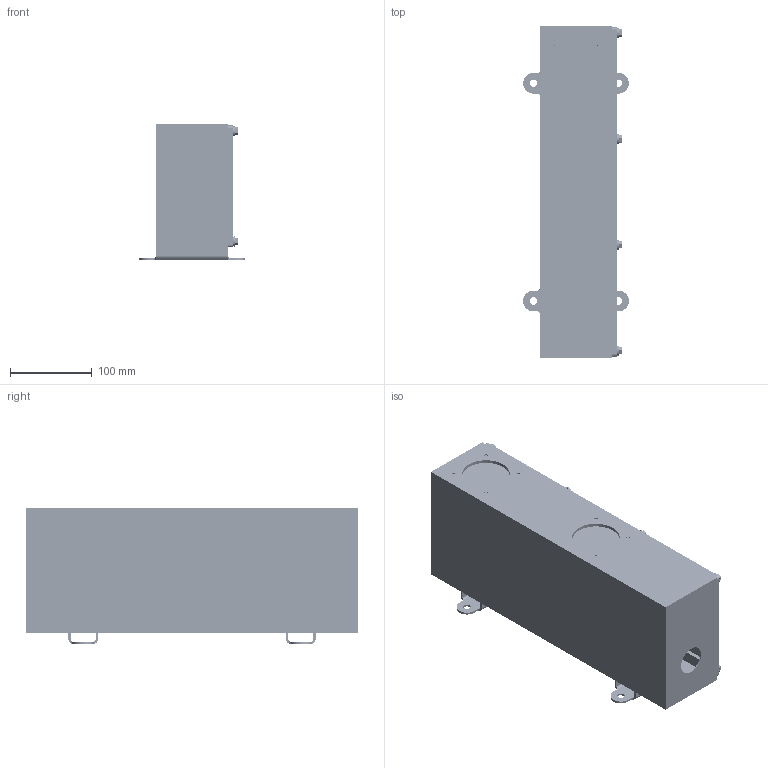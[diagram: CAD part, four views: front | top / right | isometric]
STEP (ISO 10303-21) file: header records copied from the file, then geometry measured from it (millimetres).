
FILE_DESCRIPTION (( 'STEP AP203' ), '1' );
FILE_NAME ('LD-FO.STEP', '2021-12-09T16:38:33', ( '' ), ( '' ), 'SwSTEP 2.0', 'SolidWorks 2021', '' );
FILE_SCHEMA (( 'CONFIG_CONTROL_DESIGN' ));
Length unit declared in the file: inch
Products named in the file (20): 400102; 200956; 800005; 91292A811_91292A811; 94639A455_94639A455; 200955; 400104; 800004; 200288; 93805A289_93805A289; SP-M5-2; 400222; 93805A293_93805A293; 200287; 500104; LD-FO; 200957; 93625A200; 200343; 200633
Assembly tree (63 placements, depth 3):
  LD-FO
    200956
      200955
      SP-M5-2  x8
      93805A289_93805A289  x8
      93805A293_93805A293  x3
      200957  x2
    400104  x2
    500104  x2
    200343  x2
    400222
    200288
    200287
      200633
      SP-M5-2  x3
    93625A200  x11
    800004  x8
      800005
      400102
    94639A455_94639A455  x3
    91292A811_91292A811  x3
Bounding box: 129.54 x 406.4 x 166.24 mm (x, y, z)
Volume: 734403.1 mm3; surface area: 689259.3 mm2
Topology: 78 solids, 78 shells, 3282 faces, 8549 edges, 5538 vertices
Faces by surface type: cylinder 1659, plane 1038, cone 472, bspline 91, torus 22
Entity records: 41158 total; most frequent: CARTESIAN_POINT 21196, ORIENTED_EDGE 3646, DIRECTION 3346, EDGE_CURVE 1823, AXIS2_PLACEMENT_3D 1262, VERTEX_POINT 1180, EDGE_LOOP 829, VECTOR 822
